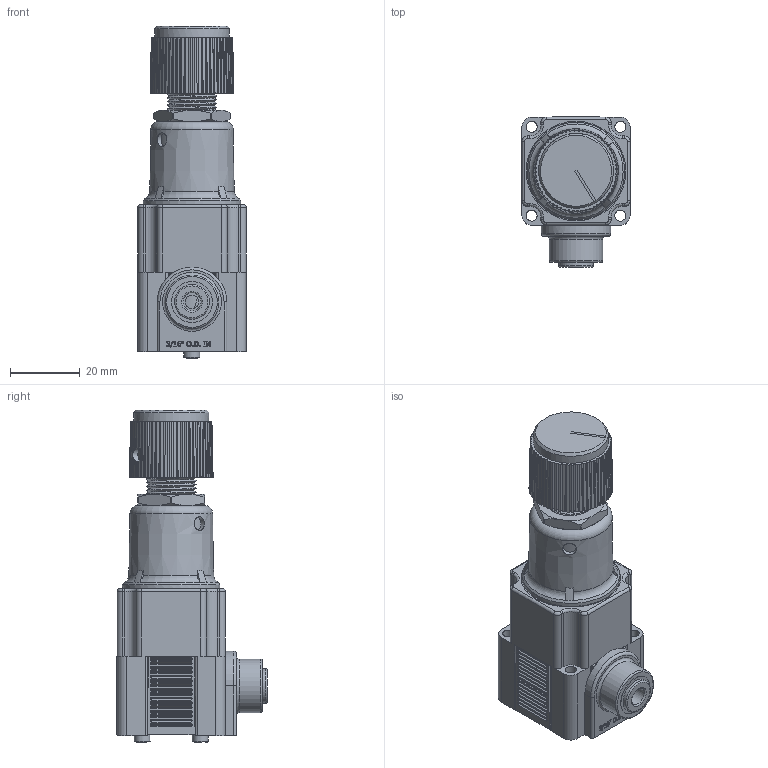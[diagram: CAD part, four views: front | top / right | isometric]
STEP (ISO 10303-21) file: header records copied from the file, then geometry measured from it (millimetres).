
FILE_DESCRIPTION(/* description */ (''),/* implementation_level */ '2;1');
FILE_NAME(/* name */ 'K:\Normteile INVENTOR\Air-Logic\Regulators\R6000\R 6___ 4 Push-In Fitting for 3''16 O.D. Tube In.igs.ipt.stp',/* time_stamp */ '2020-05-27T10:57:08+02:00',/* author */ ('Paul'),/* organization */ (''),/* preprocessor_version */ 'ST-DEVELOPER v18',/* originating_system */ 'Autodesk Inventor 2020',/* authorisation */ '');
FILE_SCHEMA (('AUTOMOTIVE_DESIGN { 1 0 10303 214 3 1 1 }'));
Length unit declared in the file: inch
Products named in the file (1): R 6___ 4 Push-In Fitting for 3'16 O.D. Tube In.igs
Bounding box: 31.19 x 43.08 x 95.02 mm (x, y, z)
Volume: 58686.7 mm3; surface area: 18139.5 mm2
Topology: 1 solids, 1 shells, 1102 faces, 2860 edges, 1850 vertices
Faces by surface type: plane 547, cylinder 352, bspline 84, cone 83, torus 36
Full cylindrical faces by diameter (mm): 1.194 x1, 2.032 x1, 3.124 x2, 3.175 x8, 3.785 x1, 3.988 x1, 4.064 x1, 4.521 x2, 5.207 x1, 6.045 x1, 8.382 x2, 9.169 x1, 9.398 x1, 9.906 x1, 11.735 x1, 12.903 x1, 15.291 x1, 19.406 x1, 21.476 x1, 27.94 x1, 28.575 x1
Entity records: 40598 total; most frequent: CARTESIAN_POINT 12228, DIRECTION 5727, ORIENTED_EDGE 5720, EDGE_CURVE 2860, AXIS2_PLACEMENT_3D 2157, VERTEX_POINT 1850, LINE 1413, VECTOR 1413
